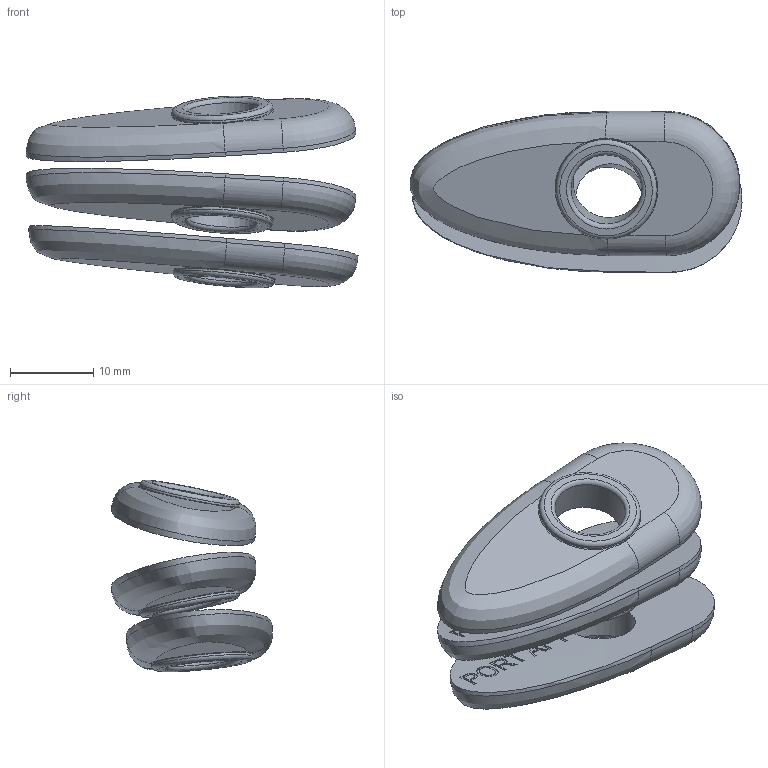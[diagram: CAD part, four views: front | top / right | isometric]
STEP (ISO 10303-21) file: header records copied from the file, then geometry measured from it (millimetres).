
FILE_DESCRIPTION(/* description */ ('','CAx-IF Rec.Pracs.---Representation and Presentation of Product Manufacturing Information (PMI)---4.0---2014-10-13'),/* implementation_level */ '2;1');
FILE_NAME(/* name */ '20vosperexhausts.step',/* time_stamp */ '2025-03-23T15:15:26+11:00',/* author */ (''),/* organization */ (''),/* preprocessor_version */ 'ST-DEVELOPER v20',/* originating_system */ 'Autodesk Translation Framework v13.20.0.188',/* authorisation */ '');
FILE_SCHEMA (('AP242_MANAGED_MODEL_BASED_3D_ENGINEERING_MIM_LF { 1 0 10303 442 1 1 4 }'));
Length unit declared in the file: millimetre
Products named in the file (1): 20scaleVosperDeckBits
Bounding box: 39.81 x 19.32 x 22.98 mm (x, y, z)
Volume: 5497.8 mm3; surface area: 4262.9 mm2
Topology: 3 solids, 3 shells, 478 faces, 1287 edges, 848 vertices
Faces by surface type: bspline 267, plane 181, torus 15, cylinder 15
Full cylindrical faces by diameter (mm): 8.502 x3, 12.145 x3
Entity records: 30913 total; most frequent: CARTESIAN_POINT 21246, ORIENTED_EDGE 2574, EDGE_CURVE 1287, DIRECTION 965, VERTEX_POINT 848, B_SPLINE_CURVE_WITH_KNOTS 812, EDGE_LOOP 517, FACE_OUTER_BOUND 478
